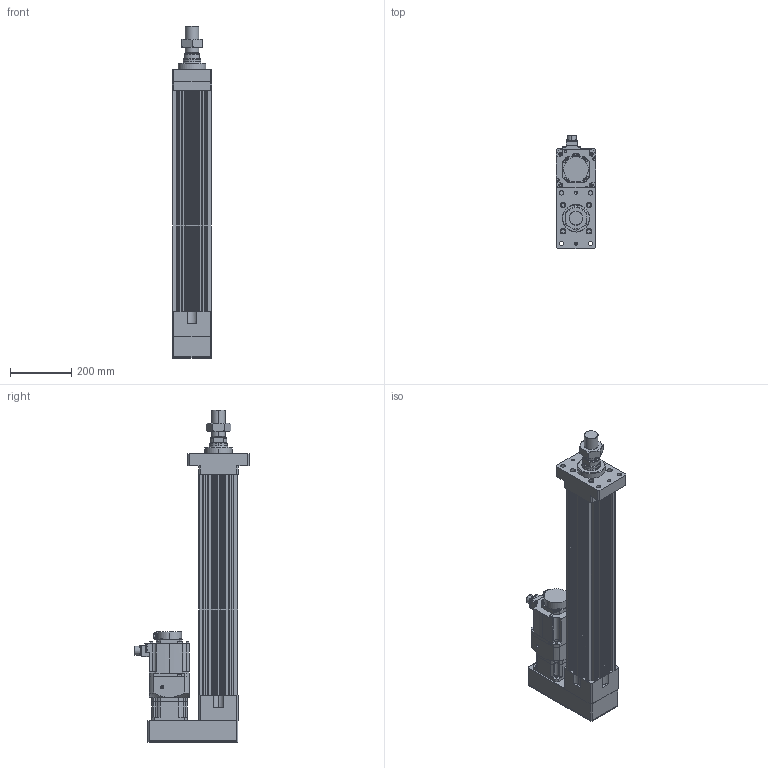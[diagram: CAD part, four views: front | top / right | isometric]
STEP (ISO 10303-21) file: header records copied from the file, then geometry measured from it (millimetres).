
FILE_DESCRIPTION (( 'STEP AP203' ), '1' );
FILE_NAME ('HES130NS(FS)(HS)-P500-W015G00-M-FMB.STEP', '2023-01-29T05:41:45', ( 'tms' ), ( '' ), 'SwSTEP 2.0', 'SolidWorks 2013', '' );
FILE_SCHEMA (( 'CONFIG_CONTROL_DESIGN' ));
Length unit declared in the file: millimetre
Products named in the file (8): HES130NS(FS)(HS)-P500-W015G00-M-FMB; HG-SR152; AB1151; M45X1.5P; AB115-003[HG-SR152]; HES130-P500-G120-FMB; P0401400706; HES130 ROD M ST500
Assembly tree (7 placements, depth 3):
  HES130NS(FS)(HS)-P500-W015G00-M-FMB
    HES130-P500-G120-FMB
    HES130 ROD M ST500
    M45X1.5P
    AB115-003[HG-SR152]
      AB1151
      P0401400706
    HG-SR152
Bounding box: 130 x 372.49 x 1082 mm (x, y, z)
Volume: 12444620.6 mm3; surface area: 1490613.3 mm2
Topology: 4 solids, 11 shells, 1082 faces, 2768 edges, 1799 vertices
Faces by surface type: cylinder 513, plane 489, cone 68, bspline 8, torus 4
Entity records: 34626 total; most frequent: CARTESIAN_POINT 6632, DIRECTION 5993, ORIENTED_EDGE 5484, EDGE_CURVE 2752, AXIS2_PLACEMENT_3D 2228, VERTEX_POINT 1799, VECTOR 1537, LINE 1537
